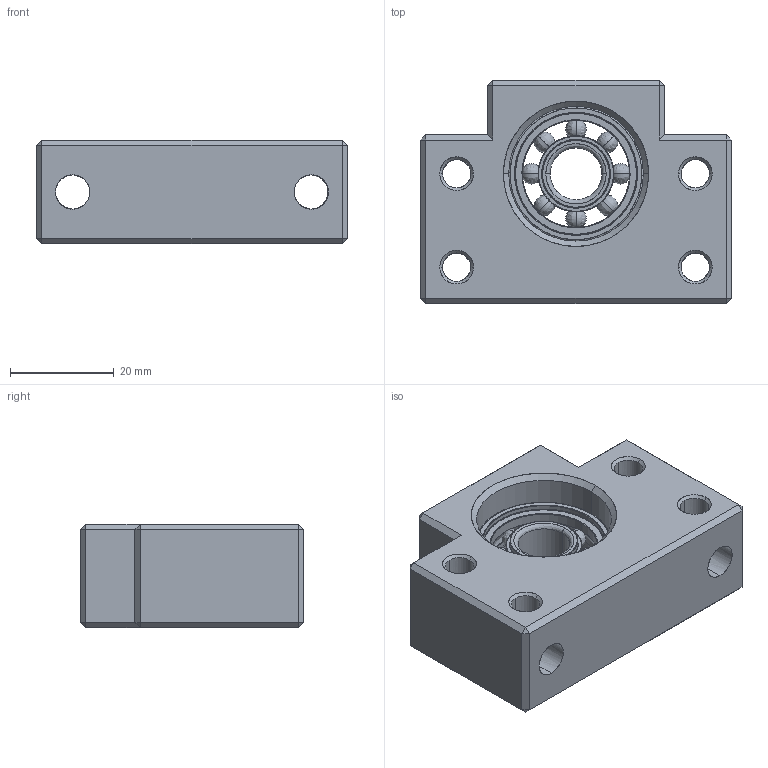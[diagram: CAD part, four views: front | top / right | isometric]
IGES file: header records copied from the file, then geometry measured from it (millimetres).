
Start section: SolidWorks IGES file using analytic representation for surfaces
Global section: file name: Z:\Accessories\_GC_!!!\SYK\Support unit\BF\BF12.IGS; native system: SolidWorks 2015; preprocessor: SolidWorks 2015; author: User; date: 170504.151524; units: millimetre
Bounding box: 60 x 43 x 20 mm (x, y, z)
Surface area: 13421.3 mm2 (no closed solid volume)
Topology: 0 solids, 0 shells, 186 faces, 2620 edges, 2588 vertices
Faces by surface type: bspline 116, revolution 70
